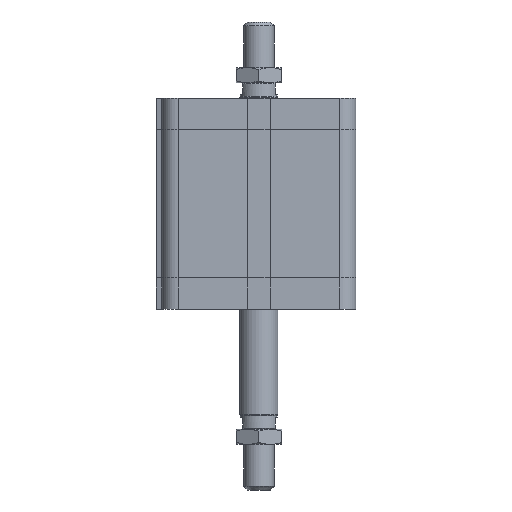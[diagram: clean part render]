
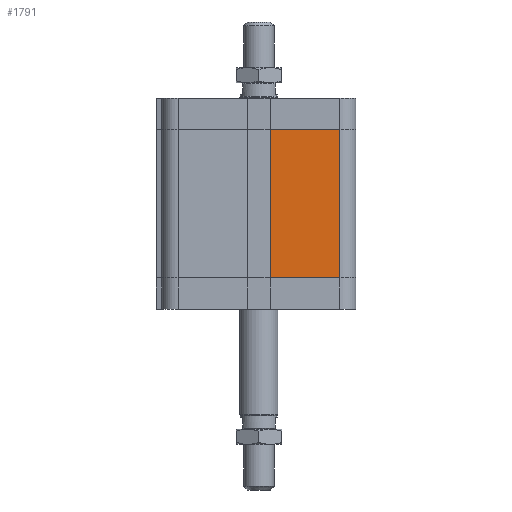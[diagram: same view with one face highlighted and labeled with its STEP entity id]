
A CAD part, left-side view. The second image highlights one B-rep face of the part: STEP entity #1791.
In plain terms, the highlighted planar face has unit normal (-1, 0, 0).
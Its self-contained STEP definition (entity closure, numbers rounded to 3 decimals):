
#1704=CARTESIAN_POINT('',(-51.,-6.,16.5));
#1705=VERTEX_POINT('',#1704);
#1712=CARTESIAN_POINT('',(-51.,-6.,94.5));
#1713=VERTEX_POINT('',#1712);
#1714=CARTESIAN_POINT('',(-51.,-6.,16.5));
#1715=DIRECTION('',(0.0,0.0,1.0));
#1716=VECTOR('',#1715,78.0);
#1717=LINE('',#1714,#1716);
#1718=EDGE_CURVE('',#1705,#1713,#1717,.T.);
#1761=CARTESIAN_POINT('',(-51.0,-42.5,0.0));
#1762=DIRECTION('',(-1.0,0.0,0.0));
#1763=DIRECTION('',(0.0,0.0,1.0));
#1764=AXIS2_PLACEMENT_3D('',#1761,#1762,#1763);
#1765=PLANE('',#1764);
#1766=CARTESIAN_POINT('',(-51.0,-42.5,16.5));
#1767=VERTEX_POINT('',#1766);
#1768=CARTESIAN_POINT('',(-51.,-6.0,16.5));
#1769=DIRECTION('',(0.0,-1.0,0.0));
#1770=VECTOR('',#1769,36.5);
#1771=LINE('',#1768,#1770);
#1772=EDGE_CURVE('',#1705,#1767,#1771,.T.);
#1773=ORIENTED_EDGE('',*,*,#1772,.T.);
#1774=CARTESIAN_POINT('',(-51.0,-42.5,94.5));
#1775=VERTEX_POINT('',#1774);
#1776=CARTESIAN_POINT('',(-51.0,-42.5,16.5));
#1777=DIRECTION('',(0.0,0.0,1.0));
#1778=VECTOR('',#1777,78.0);
#1779=LINE('',#1776,#1778);
#1780=EDGE_CURVE('',#1767,#1775,#1779,.T.);
#1781=ORIENTED_EDGE('',*,*,#1780,.T.);
#1782=CARTESIAN_POINT('',(-51.,-6.0,94.5));
#1783=DIRECTION('',(0.0,-1.0,0.0));
#1784=VECTOR('',#1783,36.5);
#1785=LINE('',#1782,#1784);
#1786=EDGE_CURVE('',#1713,#1775,#1785,.T.);
#1787=ORIENTED_EDGE('',*,*,#1786,.F.);
#1788=ORIENTED_EDGE('',*,*,#1718,.F.);
#1789=EDGE_LOOP('',(#1773,#1781,#1787,#1788));
#1790=FACE_OUTER_BOUND('',#1789,.T.);
#1791=ADVANCED_FACE('',(#1790),#1765,.T.);
